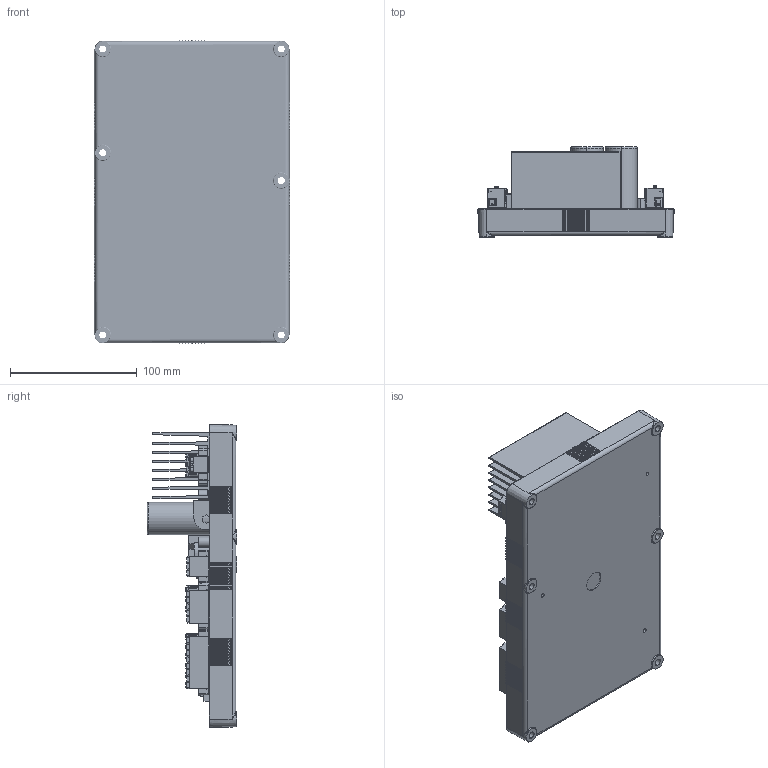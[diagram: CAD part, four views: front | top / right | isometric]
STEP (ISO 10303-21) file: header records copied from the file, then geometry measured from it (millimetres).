
FILE_DESCRIPTION (( 'STEP AP203' ), '1' );
FILE_NAME ('HVR1000 WZ.STEP', '2023-11-15T06:21:32', ( 'gk' ), ( '' ), 'SwSTEP 2.0', 'SolidWorks 2018', '' );
FILE_SCHEMA (( 'CONFIG_CONTROL_DESIGN' ));
Length unit declared in the file: millimetre
Products named in the file (1): HVR1000 WZ
Bounding box: 155.07 x 71.1 x 240.07 mm (x, y, z)
Volume: 1135785.2 mm3; surface area: 408678.4 mm2
Topology: 60 solids, 70 shells, 6684 faces, 17975 edges, 11549 vertices
Faces by surface type: plane 3876, cylinder 1856, bspline 444, torus 223, cone 150, sphere 135
Entity records: 231005 total; most frequent: CARTESIAN_POINT 67929, ORIENTED_EDGE 35282, DIRECTION 32238, EDGE_CURVE 17641, LINE 11640, VECTOR 11640, VERTEX_POINT 11333, AXIS2_PLACEMENT_3D 10299
